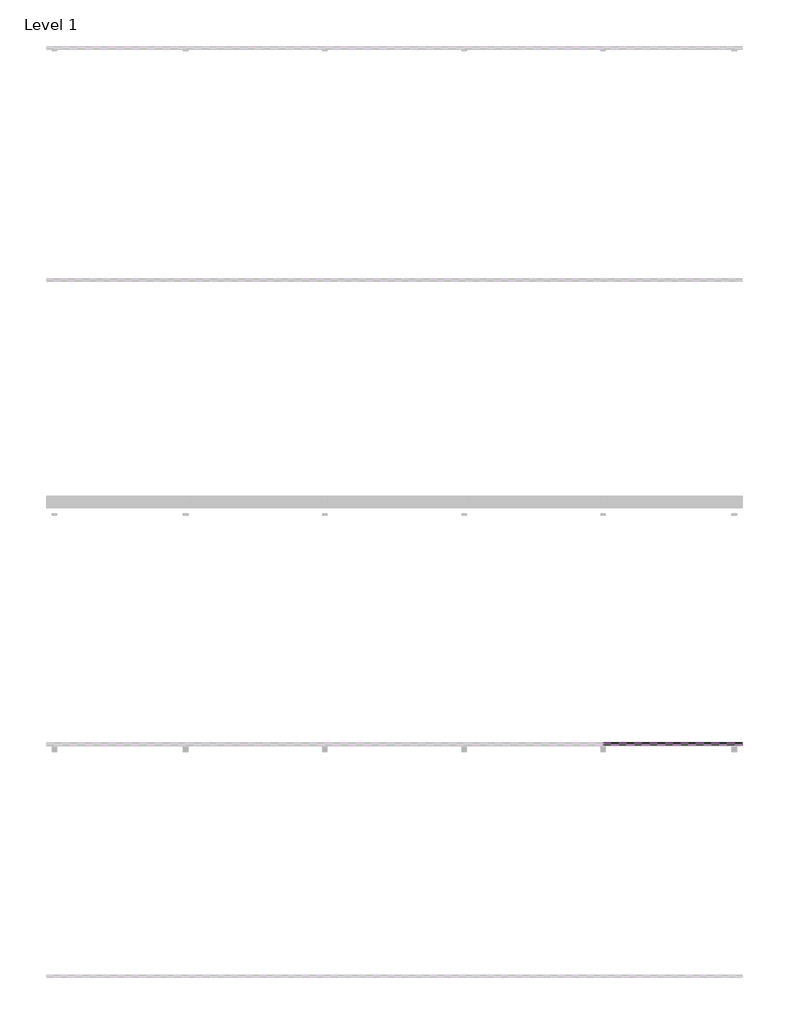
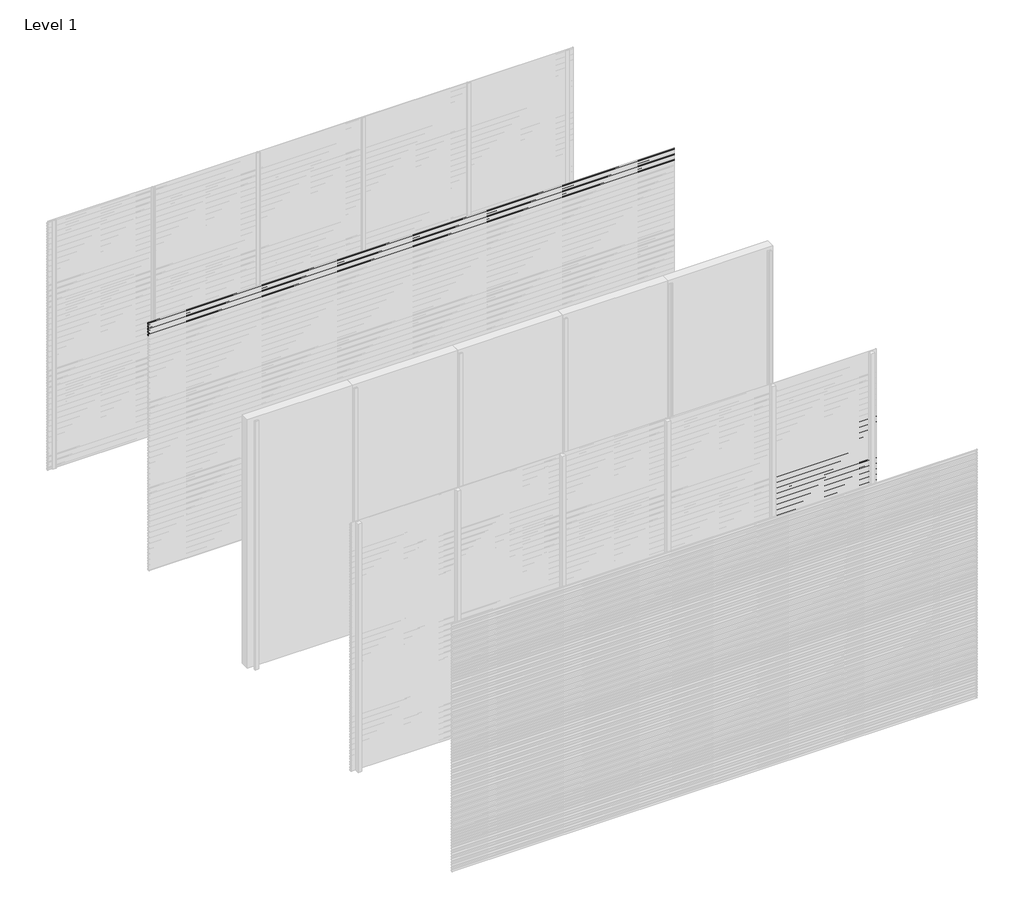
# One storey, part 40 of 77: 72 proxies.
"""IFC4 building model written with IfcOpenShell, lengths in millimetres."""

from ifc_helpers import new_model, si_unit, frame, origin, place, context, project, spatial, polyline, outline, extrude, element, save

model = new_model("IFC4")

# Units and contexts
model_context = context("Model", 3, world=origin())
ifc_project = project(units=[si_unit("LENGTHUNIT", "METRE", prefix="MILLI")], contexts=[model_context])

# Site, building, storey
site = spatial("IfcSite", under=ifc_project)
building = spatial("IfcBuilding", under=site)
storey = spatial("IfcBuildingStorey", under=building, Name="Level 1", Elevation=0.0)

# Proxies
placement = place(None, origin())
element("IfcBuildingElementProxy", 1, Name="Wall Sweeps", at=placement, inside=storey, context=model_context, shape_type="SweptSolid", body=[
    extrude(outline(polyline([(-25978.6, 2972.5359887), (-25998.0, 2983.7366691), (-25998.0, 2997.0), (-25997.0, 2997.0), (-25997.0, 2984.3191057), (-25977.6, 2973.1185105), (-25977.6, 2959.5185105), (-25978.6, 2961.0953129), (-25978.6, 2966.9032062), (-25995.9773817, 2958.8), (-25996.4, 2959.7063078), (-25978.6, 2968.0065841), (-25978.6, 2972.5359887)])), frame((0.0, 0.0, 0.0), z_axis=(1.0, 0.0, 0.0), x_axis=(0.0, 1.0, 0.0)), (0.0, 0.0, 1.0), 6000.0),
])
element("IfcBuildingElementProxy", 2, Name="Wall Sweeps", at=placement, inside=storey, context=model_context, shape_type="SweptSolid", body=[
    extrude(outline(polyline([(-25978.6, 2939.2359887), (-25998.0, 2950.4366691), (-25998.0, 2963.7), (-25997.0, 2963.7), (-25997.0, 2951.0191057), (-25977.6, 2939.8185105), (-25977.6, 2926.2185105), (-25978.6, 2927.7953129), (-25978.6, 2933.6032062), (-25995.9773817, 2925.5), (-25996.4, 2926.4063078), (-25978.6, 2934.7065841), (-25978.6, 2939.2359887)])), frame((0.0, 0.0, 0.0), z_axis=(1.0, 0.0, 0.0), x_axis=(0.0, 1.0, 0.0)), (0.0, 0.0, 1.0), 6000.0),
])
element("IfcBuildingElementProxy", 3, Name="Wall Sweeps", at=placement, inside=storey, context=model_context, shape_type="SweptSolid", body=[
    extrude(outline(polyline([(-25978.6, 2905.9359887), (-25998.0, 2917.1366691), (-25998.0, 2930.4), (-25997.0, 2930.4), (-25997.0, 2917.7191057), (-25977.6, 2906.5185105), (-25977.6, 2892.9185105), (-25978.6, 2894.4953129), (-25978.6, 2900.3032062), (-25995.9773817, 2892.2), (-25996.4, 2893.1063078), (-25978.6, 2901.4065841), (-25978.6, 2905.9359887)])), frame((0.0, 0.0, 0.0), z_axis=(1.0, 0.0, 0.0), x_axis=(0.0, 1.0, 0.0)), (0.0, 0.0, 1.0), 6000.0),
])
element("IfcBuildingElementProxy", 4, Name="Wall Sweeps", at=placement, inside=storey, context=model_context, shape_type="SweptSolid", body=[
    extrude(outline(polyline([(-25978.6, 2872.6359887), (-25998.0, 2883.8366691), (-25998.0, 2897.1), (-25997.0, 2897.1), (-25997.0, 2884.4191057), (-25977.6, 2873.2185105), (-25977.6, 2859.6185105), (-25978.6, 2861.1953129), (-25978.6, 2867.0032062), (-25995.9773817, 2858.9), (-25996.4, 2859.8063078), (-25978.6, 2868.1065841), (-25978.6, 2872.6359887)])), frame((0.0, 0.0, 0.0), z_axis=(1.0, 0.0, 0.0), x_axis=(0.0, 1.0, 0.0)), (0.0, 0.0, 1.0), 6000.0),
])
element("IfcBuildingElementProxy", 5, Name="Wall Sweeps", at=placement, inside=storey, context=model_context, shape_type="SweptSolid", body=[
    extrude(outline(polyline([(-25978.6, 2839.3359887), (-25998.0, 2850.5366691), (-25998.0, 2863.8), (-25997.0, 2863.8), (-25997.0, 2851.1191057), (-25977.6, 2839.9185105), (-25977.6, 2826.3185105), (-25978.6, 2827.8953129), (-25978.6, 2833.7032062), (-25995.9773817, 2825.6), (-25996.4, 2826.5063078), (-25978.6, 2834.8065841), (-25978.6, 2839.3359887)])), frame((0.0, 0.0, 0.0), z_axis=(1.0, 0.0, 0.0), x_axis=(0.0, 1.0, 0.0)), (0.0, 0.0, 1.0), 6000.0),
])
element("IfcBuildingElementProxy", 6, Name="Wall Sweeps", at=placement, inside=storey, context=model_context, shape_type="SweptSolid", body=[
    extrude(outline(polyline([(-29978.6, 2206.6359887), (-29998.0, 2217.8366691), (-29998.0, 2231.1), (-29997.0, 2231.1), (-29997.0, 2218.4191057), (-29977.6, 2207.2185105), (-29977.6, 2193.6185105), (-29978.6, 2195.1953129), (-29978.6, 2201.0032062), (-29995.9773817, 2192.9), (-29996.4, 2193.8063078), (-29978.6, 2202.1065841), (-29978.6, 2206.6359887)])), frame((4800.0, 0.0, 0.0), z_axis=(1.0, 0.0, 0.0), x_axis=(0.0, 1.0, 0.0)), (0.0, 0.0, 1.0), 1200.0),
])
element("IfcBuildingElementProxy", 7, Name="Wall Sweeps", at=placement, inside=storey, context=model_context, shape_type="SweptSolid", body=[
    extrude(outline(polyline([(-29978.6, 2173.3359887), (-29998.0, 2184.5366691), (-29998.0, 2197.8), (-29997.0, 2197.8), (-29997.0, 2185.1191057), (-29977.6, 2173.9185105), (-29977.6, 2160.3185105), (-29978.6, 2161.8953129), (-29978.6, 2167.7032062), (-29995.9773817, 2159.6), (-29996.4, 2160.5063078), (-29978.6, 2168.8065841), (-29978.6, 2173.3359887)])), frame((4800.0, 0.0, 0.0), z_axis=(1.0, 0.0, 0.0), x_axis=(0.0, 1.0, 0.0)), (0.0, 0.0, 1.0), 1200.0),
])
element("IfcBuildingElementProxy", 8, Name="Wall Sweeps", at=placement, inside=storey, context=model_context, shape_type="SweptSolid", body=[
    extrude(outline(polyline([(-29978.6, 2140.0359887), (-29998.0, 2151.2366691), (-29998.0, 2164.5), (-29997.0, 2164.5), (-29997.0, 2151.8191057), (-29977.6, 2140.6185105), (-29977.6, 2127.0185105), (-29978.6, 2128.5953129), (-29978.6, 2134.4032062), (-29995.9773817, 2126.3), (-29996.4, 2127.2063078), (-29978.6, 2135.5065841), (-29978.6, 2140.0359887)])), frame((4800.0, 0.0, 0.0), z_axis=(1.0, 0.0, 0.0), x_axis=(0.0, 1.0, 0.0)), (0.0, 0.0, 1.0), 1200.0),
])
element("IfcBuildingElementProxy", 9, Name="Wall Sweeps", at=placement, inside=storey, context=model_context, shape_type="SweptSolid", body=[
    extrude(outline(polyline([(-29978.6, 2106.7359887), (-29998.0, 2117.9366691), (-29998.0, 2131.2), (-29997.0, 2131.2), (-29997.0, 2118.5191057), (-29977.6, 2107.3185105), (-29977.6, 2093.7185105), (-29978.6, 2095.2953129), (-29978.6, 2101.1032062), (-29995.9773817, 2093.0), (-29996.4, 2093.9063078), (-29978.6, 2102.2065841), (-29978.6, 2106.7359887)])), frame((4800.0, 0.0, 0.0), z_axis=(1.0, 0.0, 0.0), x_axis=(0.0, 1.0, 0.0)), (0.0, 0.0, 1.0), 1200.0),
])
element("IfcBuildingElementProxy", 10, Name="Wall Sweeps", at=placement, inside=storey, context=model_context, shape_type="SweptSolid", body=[
    extrude(outline(polyline([(-29978.6, 2073.4359887), (-29998.0, 2084.6366691), (-29998.0, 2097.9), (-29997.0, 2097.9), (-29997.0, 2085.2191057), (-29977.6, 2074.0185105), (-29977.6, 2060.4185105), (-29978.6, 2061.9953129), (-29978.6, 2067.8032062), (-29995.9773817, 2059.7), (-29996.4, 2060.6063078), (-29978.6, 2068.9065841), (-29978.6, 2073.4359887)])), frame((4800.0, 0.0, 0.0), z_axis=(1.0, 0.0, 0.0), x_axis=(0.0, 1.0, 0.0)), (0.0, 0.0, 1.0), 1200.0),
])
element("IfcBuildingElementProxy", 11, Name="Wall Sweeps", at=placement, inside=storey, context=model_context, shape_type="SweptSolid", body=[
    extrude(outline(polyline([(-29978.6, 2040.1359887), (-29998.0, 2051.3366691), (-29998.0, 2064.6), (-29997.0, 2064.6), (-29997.0, 2051.9191057), (-29977.6, 2040.7185105), (-29977.6, 2027.1185105), (-29978.6, 2028.6953129), (-29978.6, 2034.5032062), (-29995.9773817, 2026.4), (-29996.4, 2027.3063078), (-29978.6, 2035.6065841), (-29978.6, 2040.1359887)])), frame((4800.0, 0.0, 0.0), z_axis=(1.0, 0.0, 0.0), x_axis=(0.0, 1.0, 0.0)), (0.0, 0.0, 1.0), 1200.0),
])
element("IfcBuildingElementProxy", 12, Name="Wall Sweeps", at=placement, inside=storey, context=model_context, shape_type="SweptSolid", body=[
    extrude(outline(polyline([(-29978.6, 2006.8359887), (-29998.0, 2018.0366691), (-29998.0, 2031.3), (-29997.0, 2031.3), (-29997.0, 2018.6191057), (-29977.6, 2007.4185105), (-29977.6, 1993.8185105), (-29978.6, 1995.3953129), (-29978.6, 2001.2032062), (-29995.9773817, 1993.1), (-29996.4, 1994.0063078), (-29978.6, 2002.3065841), (-29978.6, 2006.8359887)])), frame((4800.0, 0.0, 0.0), z_axis=(1.0, 0.0, 0.0), x_axis=(0.0, 1.0, 0.0)), (0.0, 0.0, 1.0), 1200.0),
])
element("IfcBuildingElementProxy", 13, Name="Wall Sweeps", at=placement, inside=storey, context=model_context, shape_type="SweptSolid", body=[
    extrude(outline(polyline([(-29978.6, 1973.5359887), (-29998.0, 1984.7366691), (-29998.0, 1998.0), (-29997.0, 1998.0), (-29997.0, 1985.3191057), (-29977.6, 1974.1185105), (-29977.6, 1960.5185105), (-29978.6, 1962.0953129), (-29978.6, 1967.9032062), (-29995.9773817, 1959.8), (-29996.4, 1960.7063078), (-29978.6, 1969.0065841), (-29978.6, 1973.5359887)])), frame((4800.0, 0.0, 0.0), z_axis=(1.0, 0.0, 0.0), x_axis=(0.0, 1.0, 0.0)), (0.0, 0.0, 1.0), 1200.0),
])
element("IfcBuildingElementProxy", 14, Name="Wall Sweeps", at=placement, inside=storey, context=model_context, shape_type="SweptSolid", body=[
    extrude(outline(polyline([(-29978.6, 1940.2359887), (-29998.0, 1951.4366691), (-29998.0, 1964.7), (-29997.0, 1964.7), (-29997.0, 1952.0191057), (-29977.6, 1940.8185105), (-29977.6, 1927.2185105), (-29978.6, 1928.7953129), (-29978.6, 1934.6032062), (-29995.9773817, 1926.5), (-29996.4, 1927.4063078), (-29978.6, 1935.7065841), (-29978.6, 1940.2359887)])), frame((4800.0, 0.0, 0.0), z_axis=(1.0, 0.0, 0.0), x_axis=(0.0, 1.0, 0.0)), (0.0, 0.0, 1.0), 1200.0),
])
element("IfcBuildingElementProxy", 15, Name="Wall Sweeps", at=placement, inside=storey, context=model_context, shape_type="SweptSolid", body=[
    extrude(outline(polyline([(-29978.6, 1906.9359887), (-29998.0, 1918.1366691), (-29998.0, 1931.4), (-29997.0, 1931.4), (-29997.0, 1918.7191057), (-29977.6, 1907.5185105), (-29977.6, 1893.9185105), (-29978.6, 1895.4953129), (-29978.6, 1901.3032062), (-29995.9773817, 1893.2), (-29996.4, 1894.1063078), (-29978.6, 1902.4065841), (-29978.6, 1906.9359887)])), frame((4800.0, 0.0, 0.0), z_axis=(1.0, 0.0, 0.0), x_axis=(0.0, 1.0, 0.0)), (0.0, 0.0, 1.0), 1200.0),
])
element("IfcBuildingElementProxy", 16, Name="Wall Sweeps", at=placement, inside=storey, context=model_context, shape_type="SweptSolid", body=[
    extrude(outline(polyline([(-29978.6, 1873.6359887), (-29998.0, 1884.8366691), (-29998.0, 1898.1), (-29997.0, 1898.1), (-29997.0, 1885.4191057), (-29977.6, 1874.2185105), (-29977.6, 1860.6185105), (-29978.6, 1862.1953129), (-29978.6, 1868.0032062), (-29995.9773817, 1859.9), (-29996.4, 1860.8063078), (-29978.6, 1869.1065841), (-29978.6, 1873.6359887)])), frame((4800.0, 0.0, 0.0), z_axis=(1.0, 0.0, 0.0), x_axis=(0.0, 1.0, 0.0)), (0.0, 0.0, 1.0), 1200.0),
])
element("IfcBuildingElementProxy", 17, Name="Wall Sweeps", at=placement, inside=storey, context=model_context, shape_type="SweptSolid", body=[
    extrude(outline(polyline([(-29978.6, 1840.3359887), (-29998.0, 1851.5366691), (-29998.0, 1864.8), (-29997.0, 1864.8), (-29997.0, 1852.1191057), (-29977.6, 1840.9185105), (-29977.6, 1827.3185105), (-29978.6, 1828.8953129), (-29978.6, 1834.7032062), (-29995.9773817, 1826.6), (-29996.4, 1827.5063078), (-29978.6, 1835.8065841), (-29978.6, 1840.3359887)])), frame((4800.0, 0.0, 0.0), z_axis=(1.0, 0.0, 0.0), x_axis=(0.0, 1.0, 0.0)), (0.0, 0.0, 1.0), 1200.0),
])
element("IfcBuildingElementProxy", 18, Name="Wall Sweeps", at=placement, inside=storey, context=model_context, shape_type="SweptSolid", body=[
    extrude(outline(polyline([(-29978.6, 1807.0359887), (-29998.0, 1818.2366691), (-29998.0, 1831.5), (-29997.0, 1831.5), (-29997.0, 1818.8191057), (-29977.6, 1807.6185105), (-29977.6, 1794.0185105), (-29978.6, 1795.5953129), (-29978.6, 1801.4032062), (-29995.9773817, 1793.3), (-29996.4, 1794.2063078), (-29978.6, 1802.5065841), (-29978.6, 1807.0359887)])), frame((4800.0, 0.0, 0.0), z_axis=(1.0, 0.0, 0.0), x_axis=(0.0, 1.0, 0.0)), (0.0, 0.0, 1.0), 1200.0),
])
element("IfcBuildingElementProxy", 19, Name="Wall Sweeps", at=placement, inside=storey, context=model_context, shape_type="SweptSolid", body=[
    extrude(outline(polyline([(-29978.6, 1773.7359887), (-29998.0, 1784.9366691), (-29998.0, 1798.2), (-29997.0, 1798.2), (-29997.0, 1785.5191057), (-29977.6, 1774.3185105), (-29977.6, 1760.7185105), (-29978.6, 1762.2953129), (-29978.6, 1768.1032062), (-29995.9773817, 1760.0), (-29996.4, 1760.9063078), (-29978.6, 1769.2065841), (-29978.6, 1773.7359887)])), frame((4800.0, 0.0, 0.0), z_axis=(1.0, 0.0, 0.0), x_axis=(0.0, 1.0, 0.0)), (0.0, 0.0, 1.0), 1200.0),
])
element("IfcBuildingElementProxy", 20, Name="Wall Sweeps", at=placement, inside=storey, context=model_context, shape_type="SweptSolid", body=[
    extrude(outline(polyline([(-29978.6, 1740.4359887), (-29998.0, 1751.6366691), (-29998.0, 1764.9), (-29997.0, 1764.9), (-29997.0, 1752.2191057), (-29977.6, 1741.0185105), (-29977.6, 1727.4185105), (-29978.6, 1728.9953129), (-29978.6, 1734.8032062), (-29995.9773817, 1726.7), (-29996.4, 1727.6063078), (-29978.6, 1735.9065841), (-29978.6, 1740.4359887)])), frame((4800.0, 0.0, 0.0), z_axis=(1.0, 0.0, 0.0), x_axis=(0.0, 1.0, 0.0)), (0.0, 0.0, 1.0), 1200.0),
])
element("IfcBuildingElementProxy", 21, Name="Wall Sweeps", at=placement, inside=storey, context=model_context, shape_type="SweptSolid", body=[
    extrude(outline(polyline([(-29978.6, 1707.1359887), (-29998.0, 1718.3366691), (-29998.0, 1731.6), (-29997.0, 1731.6), (-29997.0, 1718.9191057), (-29977.6, 1707.7185105), (-29977.6, 1694.1185105), (-29978.6, 1695.6953129), (-29978.6, 1701.5032062), (-29995.9773817, 1693.4), (-29996.4, 1694.3063078), (-29978.6, 1702.6065841), (-29978.6, 1707.1359887)])), frame((4800.0, 0.0, 0.0), z_axis=(1.0, 0.0, 0.0), x_axis=(0.0, 1.0, 0.0)), (0.0, 0.0, 1.0), 1200.0),
])
element("IfcBuildingElementProxy", 22, Name="Wall Sweeps", at=placement, inside=storey, context=model_context, shape_type="SweptSolid", body=[
    extrude(outline(polyline([(-29978.6, 1673.8359887), (-29998.0, 1685.0366691), (-29998.0, 1698.3), (-29997.0, 1698.3), (-29997.0, 1685.6191057), (-29977.6, 1674.4185105), (-29977.6, 1660.8185105), (-29978.6, 1662.3953129), (-29978.6, 1668.2032062), (-29995.9773817, 1660.1), (-29996.4, 1661.0063078), (-29978.6, 1669.3065841), (-29978.6, 1673.8359887)])), frame((4800.0, 0.0, 0.0), z_axis=(1.0, 0.0, 0.0), x_axis=(0.0, 1.0, 0.0)), (0.0, 0.0, 1.0), 1200.0),
])
element("IfcBuildingElementProxy", 23, Name="Wall Sweeps", at=placement, inside=storey, context=model_context, shape_type="SweptSolid", body=[
    extrude(outline(polyline([(-29978.6, 1640.5359887), (-29998.0, 1651.7366691), (-29998.0, 1665.0), (-29997.0, 1665.0), (-29997.0, 1652.3191057), (-29977.6, 1641.1185105), (-29977.6, 1627.5185105), (-29978.6, 1629.0953129), (-29978.6, 1634.9032062), (-29995.9773817, 1626.8), (-29996.4, 1627.7063078), (-29978.6, 1636.0065841), (-29978.6, 1640.5359887)])), frame((4800.0, 0.0, 0.0), z_axis=(1.0, 0.0, 0.0), x_axis=(0.0, 1.0, 0.0)), (0.0, 0.0, 1.0), 1200.0),
])
element("IfcBuildingElementProxy", 24, Name="Wall Sweeps", at=placement, inside=storey, context=model_context, shape_type="SweptSolid", body=[
    extrude(outline(polyline([(-29978.6, 1607.2359887), (-29998.0, 1618.4366691), (-29998.0, 1631.7), (-29997.0, 1631.7), (-29997.0, 1619.0191057), (-29977.6, 1607.8185105), (-29977.6, 1594.2185105), (-29978.6, 1595.7953129), (-29978.6, 1601.6032062), (-29995.9773817, 1593.5), (-29996.4, 1594.4063078), (-29978.6, 1602.7065841), (-29978.6, 1607.2359887)])), frame((4800.0, 0.0, 0.0), z_axis=(1.0, 0.0, 0.0), x_axis=(0.0, 1.0, 0.0)), (0.0, 0.0, 1.0), 1200.0),
])
element("IfcBuildingElementProxy", 25, Name="Wall Sweeps", at=placement, inside=storey, context=model_context, shape_type="SweptSolid", body=[
    extrude(outline(polyline([(-29978.6, 1573.9359887), (-29998.0, 1585.1366691), (-29998.0, 1598.4), (-29997.0, 1598.4), (-29997.0, 1585.7191057), (-29977.6, 1574.5185105), (-29977.6, 1560.9185105), (-29978.6, 1562.4953129), (-29978.6, 1568.3032062), (-29995.9773817, 1560.2), (-29996.4, 1561.1063078), (-29978.6, 1569.4065841), (-29978.6, 1573.9359887)])), frame((4800.0, 0.0, 0.0), z_axis=(1.0, 0.0, 0.0), x_axis=(0.0, 1.0, 0.0)), (0.0, 0.0, 1.0), 1200.0),
])
element("IfcBuildingElementProxy", 26, Name="Wall Sweeps", at=placement, inside=storey, context=model_context, shape_type="SweptSolid", body=[
    extrude(outline(polyline([(-29978.6, 1540.6359887), (-29998.0, 1551.8366691), (-29998.0, 1565.1), (-29997.0, 1565.1), (-29997.0, 1552.4191057), (-29977.6, 1541.2185105), (-29977.6, 1527.6185105), (-29978.6, 1529.1953129), (-29978.6, 1535.0032062), (-29995.9773817, 1526.9), (-29996.4, 1527.8063078), (-29978.6, 1536.1065841), (-29978.6, 1540.6359887)])), frame((4800.0, 0.0, 0.0), z_axis=(1.0, 0.0, 0.0), x_axis=(0.0, 1.0, 0.0)), (0.0, 0.0, 1.0), 1200.0),
])
element("IfcBuildingElementProxy", 27, Name="Wall Sweeps", at=placement, inside=storey, context=model_context, shape_type="SweptSolid", body=[
    extrude(outline(polyline([(-29978.6, 1507.3359887), (-29998.0, 1518.5366691), (-29998.0, 1531.8), (-29997.0, 1531.8), (-29997.0, 1519.1191057), (-29977.6, 1507.9185105), (-29977.6, 1494.3185105), (-29978.6, 1495.8953129), (-29978.6, 1501.7032062), (-29995.9773817, 1493.6), (-29996.4, 1494.5063078), (-29978.6, 1502.8065841), (-29978.6, 1507.3359887)])), frame((4800.0, 0.0, 0.0), z_axis=(1.0, 0.0, 0.0), x_axis=(0.0, 1.0, 0.0)), (0.0, 0.0, 1.0), 1200.0),
])
element("IfcBuildingElementProxy", 28, Name="Wall Sweeps", at=placement, inside=storey, context=model_context, shape_type="SweptSolid", body=[
    extrude(outline(polyline([(-29978.6, 1474.0359887), (-29998.0, 1485.2366691), (-29998.0, 1498.5), (-29997.0, 1498.5), (-29997.0, 1485.8191057), (-29977.6, 1474.6185105), (-29977.6, 1461.0185105), (-29978.6, 1462.5953129), (-29978.6, 1468.4032062), (-29995.9773817, 1460.3), (-29996.4, 1461.2063078), (-29978.6, 1469.5065841), (-29978.6, 1474.0359887)])), frame((4800.0, 0.0, 0.0), z_axis=(1.0, 0.0, 0.0), x_axis=(0.0, 1.0, 0.0)), (0.0, 0.0, 1.0), 1200.0),
])
element("IfcBuildingElementProxy", 29, Name="Wall Sweeps", at=placement, inside=storey, context=model_context, shape_type="SweptSolid", body=[
    extrude(outline(polyline([(-29978.6, 1440.7359887), (-29998.0, 1451.9366691), (-29998.0, 1465.2), (-29997.0, 1465.2), (-29997.0, 1452.5191057), (-29977.6, 1441.3185105), (-29977.6, 1427.7185105), (-29978.6, 1429.2953129), (-29978.6, 1435.1032062), (-29995.9773817, 1427.0), (-29996.4, 1427.9063078), (-29978.6, 1436.2065841), (-29978.6, 1440.7359887)])), frame((4800.0, 0.0, 0.0), z_axis=(1.0, 0.0, 0.0), x_axis=(0.0, 1.0, 0.0)), (0.0, 0.0, 1.0), 1200.0),
])
element("IfcBuildingElementProxy", 30, Name="Wall Sweeps", at=placement, inside=storey, context=model_context, shape_type="SweptSolid", body=[
    extrude(outline(polyline([(-29978.6, 1407.4359887), (-29998.0, 1418.6366691), (-29998.0, 1431.9), (-29997.0, 1431.9), (-29997.0, 1419.2191057), (-29977.6, 1408.0185105), (-29977.6, 1394.4185105), (-29978.6, 1395.9953129), (-29978.6, 1401.8032062), (-29995.9773817, 1393.7), (-29996.4, 1394.6063078), (-29978.6, 1402.9065841), (-29978.6, 1407.4359887)])), frame((4800.0, 0.0, 0.0), z_axis=(1.0, 0.0, 0.0), x_axis=(0.0, 1.0, 0.0)), (0.0, 0.0, 1.0), 1200.0),
])
element("IfcBuildingElementProxy", 31, Name="Wall Sweeps", at=placement, inside=storey, context=model_context, shape_type="SweptSolid", body=[
    extrude(outline(polyline([(-29978.6, 1374.1359887), (-29998.0, 1385.3366691), (-29998.0, 1398.6), (-29997.0, 1398.6), (-29997.0, 1385.9191057), (-29977.6, 1374.7185105), (-29977.6, 1361.1185105), (-29978.6, 1362.6953129), (-29978.6, 1368.5032062), (-29995.9773817, 1360.4), (-29996.4, 1361.3063078), (-29978.6, 1369.6065841), (-29978.6, 1374.1359887)])), frame((4800.0, 0.0, 0.0), z_axis=(1.0, 0.0, 0.0), x_axis=(0.0, 1.0, 0.0)), (0.0, 0.0, 1.0), 1200.0),
])
element("IfcBuildingElementProxy", 32, Name="Wall Sweeps", at=placement, inside=storey, context=model_context, shape_type="SweptSolid", body=[
    extrude(outline(polyline([(-29978.6, 1340.8359887), (-29998.0, 1352.0366691), (-29998.0, 1365.3), (-29997.0, 1365.3), (-29997.0, 1352.6191057), (-29977.6, 1341.4185105), (-29977.6, 1327.8185105), (-29978.6, 1329.3953129), (-29978.6, 1335.2032062), (-29995.9773817, 1327.1), (-29996.4, 1328.0063078), (-29978.6, 1336.3065841), (-29978.6, 1340.8359887)])), frame((4800.0, 0.0, 0.0), z_axis=(1.0, 0.0, 0.0), x_axis=(0.0, 1.0, 0.0)), (0.0, 0.0, 1.0), 1200.0),
])
element("IfcBuildingElementProxy", 33, Name="Wall Sweeps", at=placement, inside=storey, context=model_context, shape_type="SweptSolid", body=[
    extrude(outline(polyline([(-29978.6, 1307.5359887), (-29998.0, 1318.7366691), (-29998.0, 1332.0), (-29997.0, 1332.0), (-29997.0, 1319.3191057), (-29977.6, 1308.1185105), (-29977.6, 1294.5185105), (-29978.6, 1296.0953129), (-29978.6, 1301.9032062), (-29995.9773817, 1293.8), (-29996.4, 1294.7063078), (-29978.6, 1303.0065841), (-29978.6, 1307.5359887)])), frame((4800.0, 0.0, 0.0), z_axis=(1.0, 0.0, 0.0), x_axis=(0.0, 1.0, 0.0)), (0.0, 0.0, 1.0), 1200.0),
])
element("IfcBuildingElementProxy", 34, Name="Wall Sweeps", at=placement, inside=storey, context=model_context, shape_type="SweptSolid", body=[
    extrude(outline(polyline([(-29978.6, 1274.2359887), (-29998.0, 1285.4366691), (-29998.0, 1298.7), (-29997.0, 1298.7), (-29997.0, 1286.0191057), (-29977.6, 1274.8185105), (-29977.6, 1261.2185105), (-29978.6, 1262.7953129), (-29978.6, 1268.6032062), (-29995.9773817, 1260.5), (-29996.4, 1261.4063078), (-29978.6, 1269.7065841), (-29978.6, 1274.2359887)])), frame((4800.0, 0.0, 0.0), z_axis=(1.0, 0.0, 0.0), x_axis=(0.0, 1.0, 0.0)), (0.0, 0.0, 1.0), 1200.0),
])
element("IfcBuildingElementProxy", 35, Name="Wall Sweeps", at=placement, inside=storey, context=model_context, shape_type="SweptSolid", body=[
    extrude(outline(polyline([(-29978.6, 1240.9359887), (-29998.0, 1252.1366691), (-29998.0, 1265.4), (-29997.0, 1265.4), (-29997.0, 1252.7191057), (-29977.6, 1241.5185105), (-29977.6, 1227.9185105), (-29978.6, 1229.4953129), (-29978.6, 1235.3032062), (-29995.9773817, 1227.2), (-29996.4, 1228.1063078), (-29978.6, 1236.4065841), (-29978.6, 1240.9359887)])), frame((4800.0, 0.0, 0.0), z_axis=(1.0, 0.0, 0.0), x_axis=(0.0, 1.0, 0.0)), (0.0, 0.0, 1.0), 1200.0),
])
element("IfcBuildingElementProxy", 36, Name="Wall Sweeps", at=placement, inside=storey, context=model_context, shape_type="SweptSolid", body=[
    extrude(outline(polyline([(-29978.6, 1207.6359887), (-29998.0, 1218.8366691), (-29998.0, 1232.1), (-29997.0, 1232.1), (-29997.0, 1219.4191057), (-29977.6, 1208.2185105), (-29977.6, 1194.6185105), (-29978.6, 1196.1953129), (-29978.6, 1202.0032062), (-29995.9773817, 1193.9), (-29996.4, 1194.8063078), (-29978.6, 1203.1065841), (-29978.6, 1207.6359887)])), frame((4800.0, 0.0, 0.0), z_axis=(1.0, 0.0, 0.0), x_axis=(0.0, 1.0, 0.0)), (0.0, 0.0, 1.0), 1200.0),
])
element("IfcBuildingElementProxy", 37, Name="Wall Sweeps", at=placement, inside=storey, context=model_context, shape_type="SweptSolid", body=[
    extrude(outline(polyline([(-29978.6, 1174.3359887), (-29998.0, 1185.5366691), (-29998.0, 1198.8), (-29997.0, 1198.8), (-29997.0, 1186.1191057), (-29977.6, 1174.9185105), (-29977.6, 1161.3185105), (-29978.6, 1162.8953129), (-29978.6, 1168.7032062), (-29995.9773817, 1160.6), (-29996.4, 1161.5063078), (-29978.6, 1169.8065841), (-29978.6, 1174.3359887)])), frame((4800.0, 0.0, 0.0), z_axis=(1.0, 0.0, 0.0), x_axis=(0.0, 1.0, 0.0)), (0.0, 0.0, 1.0), 1200.0),
])
element("IfcBuildingElementProxy", 38, Name="Wall Sweeps", at=placement, inside=storey, context=model_context, shape_type="SweptSolid", body=[
    extrude(outline(polyline([(-29978.6, 1141.0359887), (-29998.0, 1152.2366691), (-29998.0, 1165.5), (-29997.0, 1165.5), (-29997.0, 1152.8191057), (-29977.6, 1141.6185105), (-29977.6, 1128.0185105), (-29978.6, 1129.5953129), (-29978.6, 1135.4032062), (-29995.9773817, 1127.3), (-29996.4, 1128.2063078), (-29978.6, 1136.5065841), (-29978.6, 1141.0359887)])), frame((4800.0, 0.0, 0.0), z_axis=(1.0, 0.0, 0.0), x_axis=(0.0, 1.0, 0.0)), (0.0, 0.0, 1.0), 1200.0),
])
element("IfcBuildingElementProxy", 39, Name="Wall Sweeps", at=placement, inside=storey, context=model_context, shape_type="SweptSolid", body=[
    extrude(outline(polyline([(-29978.6, 1107.7359887), (-29998.0, 1118.9366691), (-29998.0, 1132.2), (-29997.0, 1132.2), (-29997.0, 1119.5191057), (-29977.6, 1108.3185105), (-29977.6, 1094.7185105), (-29978.6, 1096.2953129), (-29978.6, 1102.1032062), (-29995.9773817, 1094.0), (-29996.4, 1094.9063078), (-29978.6, 1103.2065841), (-29978.6, 1107.7359887)])), frame((4800.0, 0.0, 0.0), z_axis=(1.0, 0.0, 0.0), x_axis=(0.0, 1.0, 0.0)), (0.0, 0.0, 1.0), 1200.0),
])
element("IfcBuildingElementProxy", 40, Name="Wall Sweeps", at=placement, inside=storey, context=model_context, shape_type="SweptSolid", body=[
    extrude(outline(polyline([(-29978.6, 1074.4359887), (-29998.0, 1085.6366691), (-29998.0, 1098.9), (-29997.0, 1098.9), (-29997.0, 1086.2191057), (-29977.6, 1075.0185105), (-29977.6, 1061.4185105), (-29978.6, 1062.9953129), (-29978.6, 1068.8032062), (-29995.9773817, 1060.7), (-29996.4, 1061.6063078), (-29978.6, 1069.9065841), (-29978.6, 1074.4359887)])), frame((4800.0, 0.0, 0.0), z_axis=(1.0, 0.0, 0.0), x_axis=(0.0, 1.0, 0.0)), (0.0, 0.0, 1.0), 1200.0),
])
element("IfcBuildingElementProxy", 41, Name="Wall Sweeps", at=placement, inside=storey, context=model_context, shape_type="SweptSolid", body=[
    extrude(outline(polyline([(-29978.6, 1041.1359887), (-29998.0, 1052.3366691), (-29998.0, 1065.6), (-29997.0, 1065.6), (-29997.0, 1052.9191057), (-29977.6, 1041.7185105), (-29977.6, 1028.1185105), (-29978.6, 1029.6953129), (-29978.6, 1035.5032062), (-29995.9773817, 1027.4), (-29996.4, 1028.3063078), (-29978.6, 1036.6065841), (-29978.6, 1041.1359887)])), frame((4800.0, 0.0, 0.0), z_axis=(1.0, 0.0, 0.0), x_axis=(0.0, 1.0, 0.0)), (0.0, 0.0, 1.0), 1200.0),
])
element("IfcBuildingElementProxy", 42, Name="Wall Sweeps", at=placement, inside=storey, context=model_context, shape_type="SweptSolid", body=[
    extrude(outline(polyline([(-29978.6, 1007.8359887), (-29998.0, 1019.0366691), (-29998.0, 1032.3), (-29997.0, 1032.3), (-29997.0, 1019.6191057), (-29977.6, 1008.4185105), (-29977.6, 994.8185105), (-29978.6, 996.3953129), (-29978.6, 1002.2032062), (-29995.9773817, 994.1), (-29996.4, 995.0063078), (-29978.6, 1003.3065841), (-29978.6, 1007.8359887)])), frame((4800.0, 0.0, 0.0), z_axis=(1.0, 0.0, 0.0), x_axis=(0.0, 1.0, 0.0)), (0.0, 0.0, 1.0), 1200.0),
])
element("IfcBuildingElementProxy", 43, Name="Wall Sweeps", at=placement, inside=storey, context=model_context, shape_type="SweptSolid", body=[
    extrude(outline(polyline([(-29978.6, 974.5359887), (-29998.0, 985.7366691), (-29998.0, 999.0), (-29997.0, 999.0), (-29997.0, 986.3191057), (-29977.6, 975.1185105), (-29977.6, 961.5185105), (-29978.6, 963.0953129), (-29978.6, 968.9032062), (-29995.9773817, 960.8), (-29996.4, 961.7063078), (-29978.6, 970.0065841), (-29978.6, 974.5359887)])), frame((4800.0, 0.0, 0.0), z_axis=(1.0, 0.0, 0.0), x_axis=(0.0, 1.0, 0.0)), (0.0, 0.0, 1.0), 1200.0),
])
element("IfcBuildingElementProxy", 44, Name="Wall Sweeps", at=placement, inside=storey, context=model_context, shape_type="SweptSolid", body=[
    extrude(outline(polyline([(-29978.6, 941.2359887), (-29998.0, 952.4366691), (-29998.0, 965.7), (-29997.0, 965.7), (-29997.0, 953.0191057), (-29977.6, 941.8185105), (-29977.6, 928.2185105), (-29978.6, 929.7953129), (-29978.6, 935.6032062), (-29995.9773817, 927.5), (-29996.4, 928.4063078), (-29978.6, 936.7065841), (-29978.6, 941.2359887)])), frame((4800.0, 0.0, 0.0), z_axis=(1.0, 0.0, 0.0), x_axis=(0.0, 1.0, 0.0)), (0.0, 0.0, 1.0), 1200.0),
])
element("IfcBuildingElementProxy", 45, Name="Wall Sweeps", at=placement, inside=storey, context=model_context, shape_type="SweptSolid", body=[
    extrude(outline(polyline([(-29978.6, 907.9359887), (-29998.0, 919.1366691), (-29998.0, 932.4), (-29997.0, 932.4), (-29997.0, 919.7191057), (-29977.6, 908.5185105), (-29977.6, 894.9185105), (-29978.6, 896.4953129), (-29978.6, 902.3032062), (-29995.9773817, 894.2), (-29996.4, 895.1063078), (-29978.6, 903.4065841), (-29978.6, 907.9359887)])), frame((4800.0, 0.0, 0.0), z_axis=(1.0, 0.0, 0.0), x_axis=(0.0, 1.0, 0.0)), (0.0, 0.0, 1.0), 1200.0),
])
element("IfcBuildingElementProxy", 46, Name="Wall Sweeps", at=placement, inside=storey, context=model_context, shape_type="SweptSolid", body=[
    extrude(outline(polyline([(-29978.6, 874.6359887), (-29998.0, 885.8366691), (-29998.0, 899.1), (-29997.0, 899.1), (-29997.0, 886.4191057), (-29977.6, 875.2185105), (-29977.6, 861.6185105), (-29978.6, 863.1953129), (-29978.6, 869.0032062), (-29995.9773817, 860.9), (-29996.4, 861.8063078), (-29978.6, 870.1065841), (-29978.6, 874.6359887)])), frame((4800.0, 0.0, 0.0), z_axis=(1.0, 0.0, 0.0), x_axis=(0.0, 1.0, 0.0)), (0.0, 0.0, 1.0), 1200.0),
])
element("IfcBuildingElementProxy", 47, Name="Wall Sweeps", at=placement, inside=storey, context=model_context, shape_type="SweptSolid", body=[
    extrude(outline(polyline([(-29978.6, 841.3359887), (-29998.0, 852.5366691), (-29998.0, 865.8), (-29997.0, 865.8), (-29997.0, 853.1191057), (-29977.6, 841.9185105), (-29977.6, 828.3185105), (-29978.6, 829.8953129), (-29978.6, 835.7032062), (-29995.9773817, 827.6), (-29996.4, 828.5063078), (-29978.6, 836.8065841), (-29978.6, 841.3359887)])), frame((4800.0, 0.0, 0.0), z_axis=(1.0, 0.0, 0.0), x_axis=(0.0, 1.0, 0.0)), (0.0, 0.0, 1.0), 1200.0),
])
element("IfcBuildingElementProxy", 48, Name="Wall Sweeps", at=placement, inside=storey, context=model_context, shape_type="SweptSolid", body=[
    extrude(outline(polyline([(-29978.6, 808.0359887), (-29998.0, 819.2366691), (-29998.0, 832.5), (-29997.0, 832.5), (-29997.0, 819.8191057), (-29977.6, 808.6185105), (-29977.6, 795.0185105), (-29978.6, 796.5953129), (-29978.6, 802.4032062), (-29995.9773817, 794.3), (-29996.4, 795.2063078), (-29978.6, 803.5065841), (-29978.6, 808.0359887)])), frame((4800.0, 0.0, 0.0), z_axis=(1.0, 0.0, 0.0), x_axis=(0.0, 1.0, 0.0)), (0.0, 0.0, 1.0), 1200.0),
])
element("IfcBuildingElementProxy", 49, Name="Wall Sweeps", at=placement, inside=storey, context=model_context, shape_type="SweptSolid", body=[
    extrude(outline(polyline([(-29978.6, 774.7359887), (-29998.0, 785.9366691), (-29998.0, 799.2), (-29997.0, 799.2), (-29997.0, 786.5191057), (-29977.6, 775.3185105), (-29977.6, 761.7185105), (-29978.6, 763.2953129), (-29978.6, 769.1032062), (-29995.9773817, 761.0), (-29996.4, 761.9063078), (-29978.6, 770.2065841), (-29978.6, 774.7359887)])), frame((4800.0, 0.0, 0.0), z_axis=(1.0, 0.0, 0.0), x_axis=(0.0, 1.0, 0.0)), (0.0, 0.0, 1.0), 1200.0),
])
element("IfcBuildingElementProxy", 50, Name="Wall Sweeps", at=placement, inside=storey, context=model_context, shape_type="SweptSolid", body=[
    extrude(outline(polyline([(-29978.6, 741.4359887), (-29998.0, 752.6366691), (-29998.0, 765.9), (-29997.0, 765.9), (-29997.0, 753.2191057), (-29977.6, 742.0185105), (-29977.6, 728.4185105), (-29978.6, 729.9953129), (-29978.6, 735.8032062), (-29995.9773817, 727.7), (-29996.4, 728.6063078), (-29978.6, 736.9065841), (-29978.6, 741.4359887)])), frame((4800.0, 0.0, 0.0), z_axis=(1.0, 0.0, 0.0), x_axis=(0.0, 1.0, 0.0)), (0.0, 0.0, 1.0), 1200.0),
])
element("IfcBuildingElementProxy", 51, Name="Wall Sweeps", at=placement, inside=storey, context=model_context, shape_type="SweptSolid", body=[
    extrude(outline(polyline([(-29978.6, 708.1359887), (-29998.0, 719.3366691), (-29998.0, 732.6), (-29997.0, 732.6), (-29997.0, 719.9191057), (-29977.6, 708.7185105), (-29977.6, 695.1185105), (-29978.6, 696.6953129), (-29978.6, 702.5032062), (-29995.9773817, 694.4), (-29996.4, 695.3063078), (-29978.6, 703.6065841), (-29978.6, 708.1359887)])), frame((4800.0, 0.0, 0.0), z_axis=(1.0, 0.0, 0.0), x_axis=(0.0, 1.0, 0.0)), (0.0, 0.0, 1.0), 1200.0),
])
element("IfcBuildingElementProxy", 52, Name="Wall Sweeps", at=placement, inside=storey, context=model_context, shape_type="SweptSolid", body=[
    extrude(outline(polyline([(-29978.6, 674.8359887), (-29998.0, 686.0366691), (-29998.0, 699.3), (-29997.0, 699.3), (-29997.0, 686.6191057), (-29977.6, 675.4185105), (-29977.6, 661.8185105), (-29978.6, 663.3953129), (-29978.6, 669.2032062), (-29995.9773817, 661.1), (-29996.4, 662.0063078), (-29978.6, 670.3065841), (-29978.6, 674.8359887)])), frame((4800.0, 0.0, 0.0), z_axis=(1.0, 0.0, 0.0), x_axis=(0.0, 1.0, 0.0)), (0.0, 0.0, 1.0), 1200.0),
])
element("IfcBuildingElementProxy", 53, Name="Wall Sweeps", at=placement, inside=storey, context=model_context, shape_type="SweptSolid", body=[
    extrude(outline(polyline([(-29978.6, 641.5359887), (-29998.0, 652.7366691), (-29998.0, 666.0), (-29997.0, 666.0), (-29997.0, 653.3191057), (-29977.6, 642.1185105), (-29977.6, 628.5185105), (-29978.6, 630.0953129), (-29978.6, 635.9032062), (-29995.9773817, 627.8), (-29996.4, 628.7063078), (-29978.6, 637.0065841), (-29978.6, 641.5359887)])), frame((4800.0, 0.0, 0.0), z_axis=(1.0, 0.0, 0.0), x_axis=(0.0, 1.0, 0.0)), (0.0, 0.0, 1.0), 1200.0),
])
element("IfcBuildingElementProxy", 54, Name="Wall Sweeps", at=placement, inside=storey, context=model_context, shape_type="SweptSolid", body=[
    extrude(outline(polyline([(-29978.6, 608.2359887), (-29998.0, 619.4366691), (-29998.0, 632.7), (-29997.0, 632.7), (-29997.0, 620.0191057), (-29977.6, 608.8185105), (-29977.6, 595.2185105), (-29978.6, 596.7953129), (-29978.6, 602.6032062), (-29995.9773817, 594.5), (-29996.4, 595.4063078), (-29978.6, 603.7065841), (-29978.6, 608.2359887)])), frame((4800.0, 0.0, 0.0), z_axis=(1.0, 0.0, 0.0), x_axis=(0.0, 1.0, 0.0)), (0.0, 0.0, 1.0), 1200.0),
])
element("IfcBuildingElementProxy", 55, Name="Wall Sweeps", at=placement, inside=storey, context=model_context, shape_type="SweptSolid", body=[
    extrude(outline(polyline([(-29978.6, 574.9359887), (-29998.0, 586.1366691), (-29998.0, 599.4), (-29997.0, 599.4), (-29997.0, 586.7191057), (-29977.6, 575.5185105), (-29977.6, 561.9185105), (-29978.6, 563.4953129), (-29978.6, 569.3032062), (-29995.9773817, 561.2), (-29996.4, 562.1063078), (-29978.6, 570.4065841), (-29978.6, 574.9359887)])), frame((4800.0, 0.0, 0.0), z_axis=(1.0, 0.0, 0.0), x_axis=(0.0, 1.0, 0.0)), (0.0, 0.0, 1.0), 1200.0),
])
element("IfcBuildingElementProxy", 56, Name="Wall Sweeps", at=placement, inside=storey, context=model_context, shape_type="SweptSolid", body=[
    extrude(outline(polyline([(-29978.6, 541.6359887), (-29998.0, 552.8366691), (-29998.0, 566.1), (-29997.0, 566.1), (-29997.0, 553.4191057), (-29977.6, 542.2185105), (-29977.6, 528.6185105), (-29978.6, 530.1953129), (-29978.6, 536.0032062), (-29995.9773817, 527.9), (-29996.4, 528.8063078), (-29978.6, 537.1065841), (-29978.6, 541.6359887)])), frame((4800.0, 0.0, 0.0), z_axis=(1.0, 0.0, 0.0), x_axis=(0.0, 1.0, 0.0)), (0.0, 0.0, 1.0), 1200.0),
])
element("IfcBuildingElementProxy", 57, Name="Wall Sweeps", at=placement, inside=storey, context=model_context, shape_type="SweptSolid", body=[
    extrude(outline(polyline([(-29978.6, 508.3359887), (-29998.0, 519.5366691), (-29998.0, 532.8), (-29997.0, 532.8), (-29997.0, 520.1191057), (-29977.6, 508.9185105), (-29977.6, 495.3185105), (-29978.6, 496.8953129), (-29978.6, 502.7032062), (-29995.9773817, 494.6), (-29996.4, 495.5063078), (-29978.6, 503.8065841), (-29978.6, 508.3359887)])), frame((4800.0, 0.0, 0.0), z_axis=(1.0, 0.0, 0.0), x_axis=(0.0, 1.0, 0.0)), (0.0, 0.0, 1.0), 1200.0),
])
element("IfcBuildingElementProxy", 58, Name="Wall Sweeps", at=placement, inside=storey, context=model_context, shape_type="SweptSolid", body=[
    extrude(outline(polyline([(-29978.6, 475.0359887), (-29998.0, 486.2366691), (-29998.0, 499.5), (-29997.0, 499.5), (-29997.0, 486.8191057), (-29977.6, 475.6185105), (-29977.6, 462.0185105), (-29978.6, 463.5953129), (-29978.6, 469.4032062), (-29995.9773817, 461.3), (-29996.4, 462.2063078), (-29978.6, 470.5065841), (-29978.6, 475.0359887)])), frame((4800.0, 0.0, 0.0), z_axis=(1.0, 0.0, 0.0), x_axis=(0.0, 1.0, 0.0)), (0.0, 0.0, 1.0), 1200.0),
])
element("IfcBuildingElementProxy", 59, Name="Wall Sweeps", at=placement, inside=storey, context=model_context, shape_type="SweptSolid", body=[
    extrude(outline(polyline([(-29978.6, 441.7359887), (-29998.0, 452.9366691), (-29998.0, 466.2), (-29997.0, 466.2), (-29997.0, 453.5191057), (-29977.6, 442.3185105), (-29977.6, 428.7185105), (-29978.6, 430.2953129), (-29978.6, 436.1032062), (-29995.9773817, 428.0), (-29996.4, 428.9063078), (-29978.6, 437.2065841), (-29978.6, 441.7359887)])), frame((4800.0, 0.0, 0.0), z_axis=(1.0, 0.0, 0.0), x_axis=(0.0, 1.0, 0.0)), (0.0, 0.0, 1.0), 1200.0),
])
element("IfcBuildingElementProxy", 60, Name="Wall Sweeps", at=placement, inside=storey, context=model_context, shape_type="SweptSolid", body=[
    extrude(outline(polyline([(-29978.6, 408.4359887), (-29998.0, 419.6366691), (-29998.0, 432.9), (-29997.0, 432.9), (-29997.0, 420.2191057), (-29977.6, 409.0185105), (-29977.6, 395.4185105), (-29978.6, 396.9953129), (-29978.6, 402.8032062), (-29995.9773817, 394.7), (-29996.4, 395.6063078), (-29978.6, 403.9065841), (-29978.6, 408.4359887)])), frame((4800.0, 0.0, 0.0), z_axis=(1.0, 0.0, 0.0), x_axis=(0.0, 1.0, 0.0)), (0.0, 0.0, 1.0), 1200.0),
])
element("IfcBuildingElementProxy", 61, Name="Wall Sweeps", at=placement, inside=storey, context=model_context, shape_type="SweptSolid", body=[
    extrude(outline(polyline([(-29978.6, 375.1359887), (-29998.0, 386.3366691), (-29998.0, 399.6), (-29997.0, 399.6), (-29997.0, 386.9191057), (-29977.6, 375.7185105), (-29977.6, 362.1185105), (-29978.6, 363.6953129), (-29978.6, 369.5032062), (-29995.9773817, 361.4), (-29996.4, 362.3063078), (-29978.6, 370.6065841), (-29978.6, 375.1359887)])), frame((4800.0, 0.0, 0.0), z_axis=(1.0, 0.0, 0.0), x_axis=(0.0, 1.0, 0.0)), (0.0, 0.0, 1.0), 1200.0),
])
element("IfcBuildingElementProxy", 62, Name="Wall Sweeps", at=placement, inside=storey, context=model_context, shape_type="SweptSolid", body=[
    extrude(outline(polyline([(-29978.6, 341.8359887), (-29998.0, 353.0366691), (-29998.0, 366.3), (-29997.0, 366.3), (-29997.0, 353.6191057), (-29977.6, 342.4185105), (-29977.6, 328.8185105), (-29978.6, 330.3953129), (-29978.6, 336.2032062), (-29995.9773817, 328.1), (-29996.4, 329.0063078), (-29978.6, 337.3065841), (-29978.6, 341.8359887)])), frame((4800.0, 0.0, 0.0), z_axis=(1.0, 0.0, 0.0), x_axis=(0.0, 1.0, 0.0)), (0.0, 0.0, 1.0), 1200.0),
])
element("IfcBuildingElementProxy", 63, Name="Wall Sweeps", at=placement, inside=storey, context=model_context, shape_type="SweptSolid", body=[
    extrude(outline(polyline([(-29978.6, 308.5359887), (-29998.0, 319.7366691), (-29998.0, 333.0), (-29997.0, 333.0), (-29997.0, 320.3191057), (-29977.6, 309.1185105), (-29977.6, 295.5185105), (-29978.6, 297.0953129), (-29978.6, 302.9032062), (-29995.9773817, 294.8), (-29996.4, 295.7063078), (-29978.6, 304.0065841), (-29978.6, 308.5359887)])), frame((4800.0, 0.0, 0.0), z_axis=(1.0, 0.0, 0.0), x_axis=(0.0, 1.0, 0.0)), (0.0, 0.0, 1.0), 1200.0),
])
element("IfcBuildingElementProxy", 64, Name="Wall Sweeps", at=placement, inside=storey, context=model_context, shape_type="SweptSolid", body=[
    extrude(outline(polyline([(-29978.6, 275.2359887), (-29998.0, 286.4366691), (-29998.0, 299.7), (-29997.0, 299.7), (-29997.0, 287.0191057), (-29977.6, 275.8185105), (-29977.6, 262.2185105), (-29978.6, 263.7953129), (-29978.6, 269.6032062), (-29995.9773817, 261.5), (-29996.4, 262.4063078), (-29978.6, 270.7065841), (-29978.6, 275.2359887)])), frame((4800.0, 0.0, 0.0), z_axis=(1.0, 0.0, 0.0), x_axis=(0.0, 1.0, 0.0)), (0.0, 0.0, 1.0), 1200.0),
])
element("IfcBuildingElementProxy", 65, Name="Wall Sweeps", at=placement, inside=storey, context=model_context, shape_type="SweptSolid", body=[
    extrude(outline(polyline([(-29978.6, 241.9359887), (-29998.0, 253.1366691), (-29998.0, 266.4), (-29997.0, 266.4), (-29997.0, 253.7191057), (-29977.6, 242.5185105), (-29977.6, 228.9185105), (-29978.6, 230.4953129), (-29978.6, 236.3032062), (-29995.9773817, 228.2), (-29996.4, 229.1063078), (-29978.6, 237.4065841), (-29978.6, 241.9359887)])), frame((4800.0, 0.0, 0.0), z_axis=(1.0, 0.0, 0.0), x_axis=(0.0, 1.0, 0.0)), (0.0, 0.0, 1.0), 1200.0),
])
element("IfcBuildingElementProxy", 66, Name="Wall Sweeps", at=placement, inside=storey, context=model_context, shape_type="SweptSolid", body=[
    extrude(outline(polyline([(-29978.6, 208.6359887), (-29998.0, 219.8366691), (-29998.0, 233.1), (-29997.0, 233.1), (-29997.0, 220.4191057), (-29977.6, 209.2185105), (-29977.6, 195.6185105), (-29978.6, 197.1953129), (-29978.6, 203.0032062), (-29995.9773817, 194.9), (-29996.4, 195.8063078), (-29978.6, 204.1065841), (-29978.6, 208.6359887)])), frame((4800.0, 0.0, 0.0), z_axis=(1.0, 0.0, 0.0), x_axis=(0.0, 1.0, 0.0)), (0.0, 0.0, 1.0), 1200.0),
])
element("IfcBuildingElementProxy", 67, Name="Wall Sweeps", at=placement, inside=storey, context=model_context, shape_type="SweptSolid", body=[
    extrude(outline(polyline([(-29978.6, 175.3359887), (-29998.0, 186.5366691), (-29998.0, 199.8), (-29997.0, 199.8), (-29997.0, 187.1191057), (-29977.6, 175.9185105), (-29977.6, 162.3185105), (-29978.6, 163.8953129), (-29978.6, 169.7032062), (-29995.9773817, 161.6), (-29996.4, 162.5063078), (-29978.6, 170.8065841), (-29978.6, 175.3359887)])), frame((4800.0, 0.0, 0.0), z_axis=(1.0, 0.0, 0.0), x_axis=(0.0, 1.0, 0.0)), (0.0, 0.0, 1.0), 1200.0),
])
element("IfcBuildingElementProxy", 68, Name="Wall Sweeps", at=placement, inside=storey, context=model_context, shape_type="SweptSolid", body=[
    extrude(outline(polyline([(-29978.6, 142.0359887), (-29998.0, 153.2366691), (-29998.0, 166.5), (-29997.0, 166.5), (-29997.0, 153.8191057), (-29977.6, 142.6185105), (-29977.6, 129.0185105), (-29978.6, 130.5953129), (-29978.6, 136.4032062), (-29995.9773817, 128.3), (-29996.4, 129.2063078), (-29978.6, 137.5065841), (-29978.6, 142.0359887)])), frame((4800.0, 0.0, 0.0), z_axis=(1.0, 0.0, 0.0), x_axis=(0.0, 1.0, 0.0)), (0.0, 0.0, 1.0), 1200.0),
])
element("IfcBuildingElementProxy", 69, Name="Wall Sweeps", at=placement, inside=storey, context=model_context, shape_type="SweptSolid", body=[
    extrude(outline(polyline([(-29978.6, 108.7359887), (-29998.0, 119.9366691), (-29998.0, 133.2), (-29997.0, 133.2), (-29997.0, 120.5191057), (-29977.6, 109.3185105), (-29977.6, 95.7185105), (-29978.6, 97.2953129), (-29978.6, 103.1032062), (-29995.9773817, 95.0), (-29996.4, 95.9063078), (-29978.6, 104.2065841), (-29978.6, 108.7359887)])), frame((4800.0, 0.0, 0.0), z_axis=(1.0, 0.0, 0.0), x_axis=(0.0, 1.0, 0.0)), (0.0, 0.0, 1.0), 1200.0),
])
element("IfcBuildingElementProxy", 70, Name="Wall Sweeps", at=placement, inside=storey, context=model_context, shape_type="SweptSolid", body=[
    extrude(outline(polyline([(-29978.6, 75.4359887), (-29998.0, 86.6366691), (-29998.0, 99.9), (-29997.0, 99.9), (-29997.0, 87.2191057), (-29977.6, 76.0185105), (-29977.6, 62.4185105), (-29978.6, 63.9953129), (-29978.6, 69.8032062), (-29995.9773817, 61.7), (-29996.4, 62.6063078), (-29978.6, 70.9065841), (-29978.6, 75.4359887)])), frame((4800.0, 0.0, 0.0), z_axis=(1.0, 0.0, 0.0), x_axis=(0.0, 1.0, 0.0)), (0.0, 0.0, 1.0), 1200.0),
])
element("IfcBuildingElementProxy", 71, Name="Wall Sweeps", at=placement, inside=storey, context=model_context, shape_type="SweptSolid", body=[
    extrude(outline(polyline([(-29978.6, 42.1359887), (-29998.0, 53.3366691), (-29998.0, 66.6), (-29997.0, 66.6), (-29997.0, 53.9191057), (-29977.6, 42.7185105), (-29977.6, 29.1185105), (-29978.6, 30.6953129), (-29978.6, 36.5032062), (-29995.9773817, 28.4), (-29996.4, 29.3063078), (-29978.6, 37.6065841), (-29978.6, 42.1359887)])), frame((4800.0, 0.0, 0.0), z_axis=(1.0, 0.0, 0.0), x_axis=(0.0, 1.0, 0.0)), (0.0, 0.0, 1.0), 1200.0),
])
element("IfcBuildingElementProxy", 72, Name="Wall Sweeps", at=placement, inside=storey, context=model_context, shape_type="SweptSolid", body=[
    extrude(outline(polyline([(-29978.6, 8.8359887), (-29998.0, 20.0366691), (-29998.0, 33.3), (-29997.0, 33.3), (-29997.0, 20.6191057), (-29977.6, 9.4185105), (-29977.6, -4.1814895), (-29978.6, -2.6046871), (-29978.6, 3.2032062), (-29995.9773817, -4.9), (-29996.4, -3.9936922), (-29978.6, 4.3065841), (-29978.6, 8.8359887)])), frame((4800.0, 0.0, 0.0), z_axis=(1.0, 0.0, 0.0), x_axis=(0.0, 1.0, 0.0)), (0.0, 0.0, 1.0), 1200.0),
])

save(model, "model.ifc")
